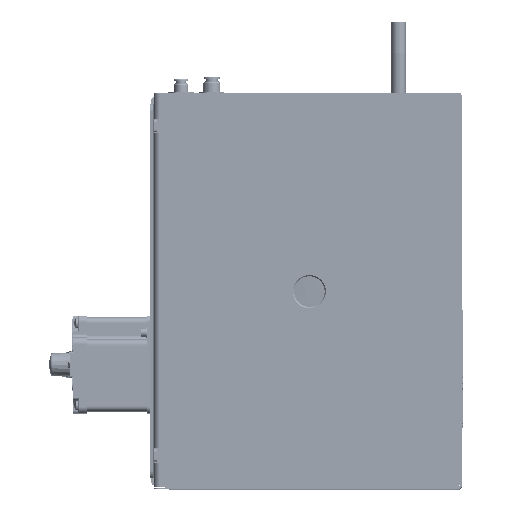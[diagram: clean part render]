
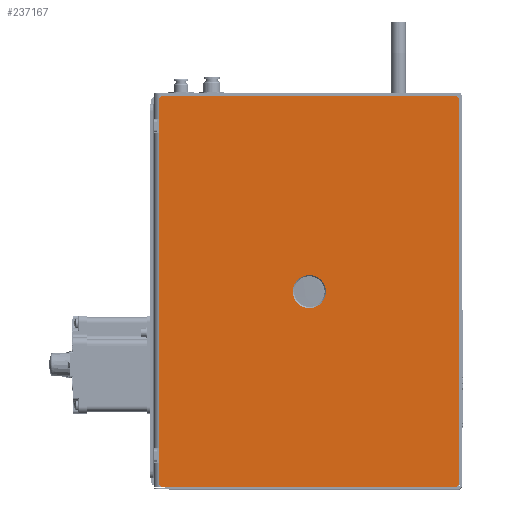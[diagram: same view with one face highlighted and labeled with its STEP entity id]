
A CAD part, top view. The second image highlights one B-rep face of the part: STEP entity #237167.
In plain terms, the highlighted planar face has unit normal (0, 0, 1).
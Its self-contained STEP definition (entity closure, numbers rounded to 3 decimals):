
#6538=LINE($,#324808,#31723);
#6544=LINE($,#324820,#31729);
#6545=LINE($,#324823,#31730);
#6549=LINE($,#324831,#31734);
#6553=LINE($,#324838,#31738);
#6556=LINE($,#324844,#31741);
#6563=LINE($,#324857,#31748);
#6564=LINE($,#324859,#31749);
#31723=VECTOR($,#268494,315.);
#31729=VECTOR($,#268502,315.);
#31730=VECTOR($,#268505,2.828);
#31734=VECTOR($,#268511,241.);
#31738=VECTOR($,#268517,2.828);
#31741=VECTOR($,#268522,2.828);
#31748=VECTOR($,#268531,241.);
#31749=VECTOR($,#268534,2.828);
#56953=PLANE($,#250768);
#65960=FACE_BOUND($,#83482,.T.);
#70226=FACE_OUTER_BOUND($,#83481,.T.);
#83481=EDGE_LOOP($,(#159551,#159552,#159553,#159554,#159555,#159556,#159557,
#159558));
#83482=EDGE_LOOP($,(#159559));
#97804=CIRCLE($,#250769,13.5);
#102194=VERTEX_POINT($,#324804);
#102196=VERTEX_POINT($,#324807);
#102199=VERTEX_POINT($,#324814);
#102201=VERTEX_POINT($,#324818);
#102202=VERTEX_POINT($,#324822);
#102204=VERTEX_POINT($,#324828);
#102209=VERTEX_POINT($,#324843);
#102212=VERTEX_POINT($,#324850);
#102218=VERTEX_POINT($,#324869);
#124912=EDGE_CURVE($,#102194,#102196,#6538,.T.);
#124918=EDGE_CURVE($,#102201,#102199,#6544,.T.);
#124919=EDGE_CURVE($,#102202,#102201,#6545,.T.);
#124923=EDGE_CURVE($,#102204,#102202,#6549,.T.);
#124927=EDGE_CURVE($,#102196,#102204,#6553,.T.);
#124930=EDGE_CURVE($,#102199,#102209,#6556,.T.);
#124937=EDGE_CURVE($,#102209,#102212,#6563,.T.);
#124938=EDGE_CURVE($,#102212,#102194,#6564,.T.);
#124943=EDGE_CURVE($,#102218,#102218,#97804,.T.);
#159551=ORIENTED_EDGE($,*,*,#124938,.F.);
#159552=ORIENTED_EDGE($,*,*,#124937,.F.);
#159553=ORIENTED_EDGE($,*,*,#124930,.F.);
#159554=ORIENTED_EDGE($,*,*,#124918,.F.);
#159555=ORIENTED_EDGE($,*,*,#124919,.F.);
#159556=ORIENTED_EDGE($,*,*,#124923,.F.);
#159557=ORIENTED_EDGE($,*,*,#124927,.F.);
#159558=ORIENTED_EDGE($,*,*,#124912,.F.);
#159559=ORIENTED_EDGE($,*,*,#124943,.F.);
#237167=ADVANCED_FACE($,(#70226,#65960),#56953,.T.);
#250768=AXIS2_PLACEMENT_3D($,#324868,#268543,#268544);
#250769=AXIS2_PLACEMENT_3D($,#324870,#268545,#268546);
#268494=DIRECTION($,(0.,1.,0.));
#268502=DIRECTION($,(0.,-1.,0.));
#268505=DIRECTION($,(0.707,-0.707,0.));
#268511=DIRECTION($,(1.,0.,0.));
#268517=DIRECTION($,(0.707,0.707,0.));
#268522=DIRECTION($,(-0.707,-0.707,0.));
#268531=DIRECTION($,(-1.,0.,0.));
#268534=DIRECTION($,(-0.707,0.707,0.));
#268543=DIRECTION('center_axis',(0.,0.,
1.));
#268544=DIRECTION('ref_axis',(1.,0.,0.));
#268545=DIRECTION('center_axis',(0.,0.,
1.));
#268546=DIRECTION('ref_axis',(-1.,0.,0.));
#324804=CARTESIAN_POINT('',(-47.294,-189.839,250.5));
#324807=CARTESIAN_POINT('',(-47.294,125.161,250.5));
#324808=CARTESIAN_POINT($,(-47.294,-189.839,250.5));
#324814=CARTESIAN_POINT('',(197.706,-189.839,250.5));
#324818=CARTESIAN_POINT('',(197.706,125.161,250.5));
#324820=CARTESIAN_POINT($,(197.706,125.161,250.5));
#324822=CARTESIAN_POINT('',(195.706,127.161,250.5));
#324823=CARTESIAN_POINT($,(195.706,127.161,250.5));
#324828=CARTESIAN_POINT('',(-45.294,127.161,250.5));
#324831=CARTESIAN_POINT($,(-45.294,127.161,250.5));
#324838=CARTESIAN_POINT($,(-47.294,125.161,250.5));
#324843=CARTESIAN_POINT('',(195.706,-191.839,250.5));
#324844=CARTESIAN_POINT($,(197.706,-189.839,250.5));
#324850=CARTESIAN_POINT('',(-45.294,-191.839,250.5));
#324857=CARTESIAN_POINT($,(195.706,-191.839,250.5));
#324859=CARTESIAN_POINT($,(-45.294,-191.839,250.5));
#324868=CARTESIAN_POINT('Origin',(75.206,-32.339,250.5));
#324869=CARTESIAN_POINT('',(88.706,-32.339,250.5));
#324870=CARTESIAN_POINT('Origin',(75.206,-32.339,250.5));
